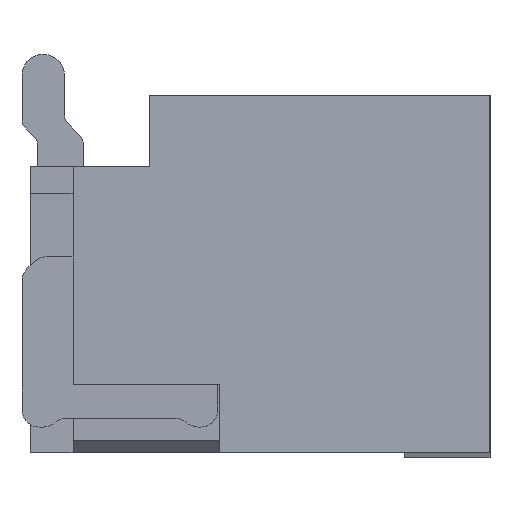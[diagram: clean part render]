
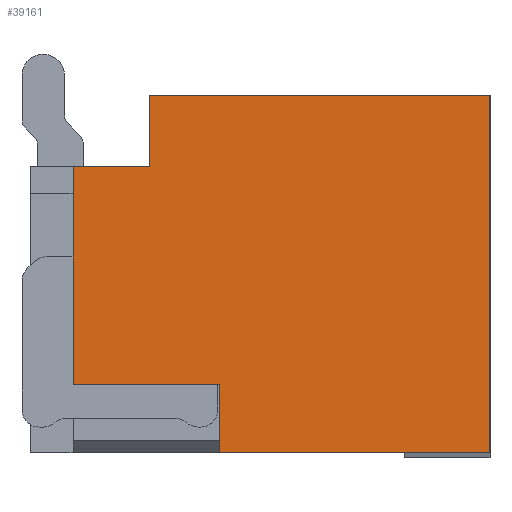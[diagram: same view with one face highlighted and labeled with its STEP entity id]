
A CAD part, left-side view. The second image highlights one B-rep face of the part: STEP entity #39161.
In plain terms, the highlighted planar face has unit normal (-1, 0, 0).
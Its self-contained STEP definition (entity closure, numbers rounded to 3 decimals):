
#887=DIRECTION('',(0.,0.,1.));
#888=VECTOR('',#887,0.42);
#889=CARTESIAN_POINT('',(45.951,48.255,-2.435));
#890=LINE('',#889,#888);
#927=DIRECTION('',(0.,0.,-1.));
#928=VECTOR('',#927,2.1);
#929=CARTESIAN_POINT('',(45.951,46.255,-2.015));
#930=LINE('',#929,#928);
#10155=DIRECTION('',(0.,1.,0.));
#10156=VECTOR('',#10155,1.59);
#10157=CARTESIAN_POINT('',(45.951,46.255,
-4.115));
#10158=LINE('',#10157,#10156);
#10191=DIRECTION('',(0.,0.,1.));
#10192=VECTOR('',#10191,1.28);
#10193=CARTESIAN_POINT('',(45.951,48.705,
-3.715));
#10194=LINE('',#10193,#10192);
#10381=DIRECTION('',(0.,1.,0.));
#10382=VECTOR('',#10381,0.45);
#10383=CARTESIAN_POINT('',(45.951,48.255,
-2.435));
#10384=LINE('',#10383,#10382);
#10385=DIRECTION('',(0.,1.,0.));
#10386=VECTOR('',#10385,2.);
#10387=CARTESIAN_POINT('',(45.951,46.255,
-2.015));
#10388=LINE('',#10387,#10386);
#10389=DIRECTION('',(0.,0.,-1.));
#10390=VECTOR('',#10389,0.4);
#10391=CARTESIAN_POINT('',(45.951,47.845,
-3.715));
#10392=LINE('',#10391,#10390);
#10917=DIRECTION('',(0.,1.,0.));
#10918=VECTOR('',#10917,0.86);
#10919=CARTESIAN_POINT('',(45.951,47.845,
-3.715));
#10920=LINE('',#10919,#10918);
#19939=CARTESIAN_POINT('',(45.951,48.705,
-2.435));
#19940=VERTEX_POINT('',#19939);
#19941=CARTESIAN_POINT('',(45.951,48.705,
-3.715));
#19942=VERTEX_POINT('',#19941);
#20239=CARTESIAN_POINT('',(45.951,47.845,
-3.715));
#20240=VERTEX_POINT('',#20239);
#20303=CARTESIAN_POINT('',(45.951,47.845,
-4.115));
#20304=VERTEX_POINT('',#20303);
#20451=CARTESIAN_POINT('',(45.951,48.255,
-2.435));
#20452=CARTESIAN_POINT('',(45.951,48.255,
-2.015));
#20453=VERTEX_POINT('',#20451);
#20454=VERTEX_POINT('',#20452);
#20455=CARTESIAN_POINT('',(45.951,46.255,
-2.015));
#20456=VERTEX_POINT('',#20455);
#20457=CARTESIAN_POINT('',(45.951,46.255,
-4.115));
#20458=VERTEX_POINT('',#20457);
#39144=CARTESIAN_POINT('',(45.951,75.644,
-2.446));
#39145=DIRECTION('',(-1.,0.,0.));
#39146=DIRECTION('',(0.,0.,1.));
#39147=AXIS2_PLACEMENT_3D('',#39144,#39145,#39146);
#39148=PLANE('',#39147);
#39149=ORIENTED_EDGE('',*,*,#26560,.F.);
#39150=ORIENTED_EDGE('',*,*,#26821,.T.);
#39151=ORIENTED_EDGE('',*,*,#26836,.F.);
#39152=ORIENTED_EDGE('',*,*,#26862,.T.);
#39153=ORIENTED_EDGE('',*,*,#38869,.T.);
#39155=ORIENTED_EDGE('',*,*,#39154,.F.);
#39157=ORIENTED_EDGE('',*,*,#39156,.T.);
#39158=ORIENTED_EDGE('',*,*,#38912,.T.);
#39159=EDGE_LOOP('',(#39149,#39150,#39151,#39152,#39153,#39155,#39157,#39158));
#39160=FACE_OUTER_BOUND('',#39159,.F.);
#39161=ADVANCED_FACE('',(#39160),#39148,.T.);
#26560=EDGE_CURVE('',#20453,#19940,#10384,.T.);
#26821=EDGE_CURVE('',#20453,#20454,#890,.T.);
#26836=EDGE_CURVE('',#20456,#20454,#10388,.T.);
#26862=EDGE_CURVE('',#20456,#20458,#930,.T.);
#38869=EDGE_CURVE('',#20458,#20304,#10158,.T.);
#38912=EDGE_CURVE('',#19942,#19940,#10194,.T.);
#39154=EDGE_CURVE('',#20240,#20304,#10392,.T.);
#39156=EDGE_CURVE('',#20240,#19942,#10920,.T.);
